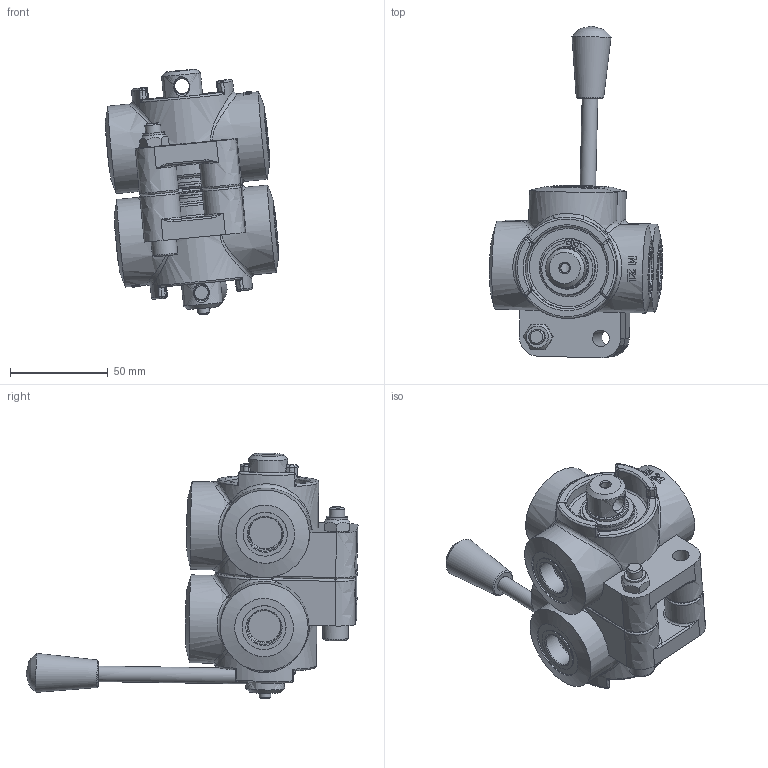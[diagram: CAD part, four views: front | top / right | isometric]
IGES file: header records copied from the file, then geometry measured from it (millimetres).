
Global section: file name: No Iges File Name specified; native system: Autodesk Inventor 2013; preprocessor: AutoDesk Inventor Iges Exporter R2013; author: christian.scardovi; date: 20240826.131224; units: millimetre
Bounding box: 88.6 x 169.88 x 125.67 mm (x, y, z)
Volume: 383195.7 mm3; surface area: 64058.6 mm2
Topology: 1 solids, 1 shells, 595 faces, 1452 edges, 862 vertices
Faces by surface type: bspline 595
